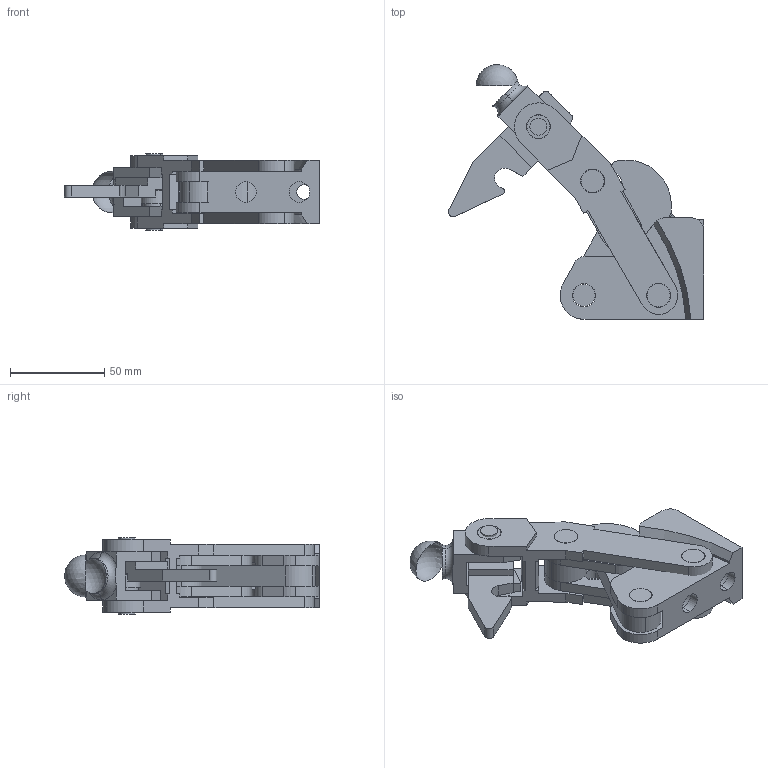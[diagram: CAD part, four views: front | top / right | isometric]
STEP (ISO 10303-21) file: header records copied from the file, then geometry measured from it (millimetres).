
FILE_DESCRIPTION( ( '' ), '1' );
FILE_NAME( 'C:\Documents and Settings\Richard Grenzke\My Documents\Wolverine Company Data\WOLVERINE CD 5_17_05\SOLIDS STEP\heavy_duty_compact\lyt1039.stp', ' ', ( '' ), ( '' ), 'ACIS Interop R16', 'Kubotek KeyCreator V5.5.1 (0454)', ' ' );
FILE_SCHEMA( ( 'CONFIG_CONTROL_DESIGN' ) );
Length unit declared in the file: inch
Products named in the file (14): 1; 2; 3; 4; 5; 6; 7; 8; 9; 10; 11; 12; 13; 14
Bounding box: 135.5 x 135.24 x 40.89 mm (x, y, z)
Volume: 154729.9 mm3; surface area: 69521.7 mm2
Topology: 13 solids, 13 shells, 311 faces, 868 edges, 579 vertices
Faces by surface type: plane 176, cylinder 121, torus 6, cone 6, sphere 2
Entity records: 10949 total; most frequent: CARTESIAN_POINT 1972, DIRECTION 1824, ORIENTED_EDGE 1728, EDGE_CURVE 864, AXIS2_PLACEMENT_3D 665, VERTEX_POINT 579, LINE 494, VECTOR 494
